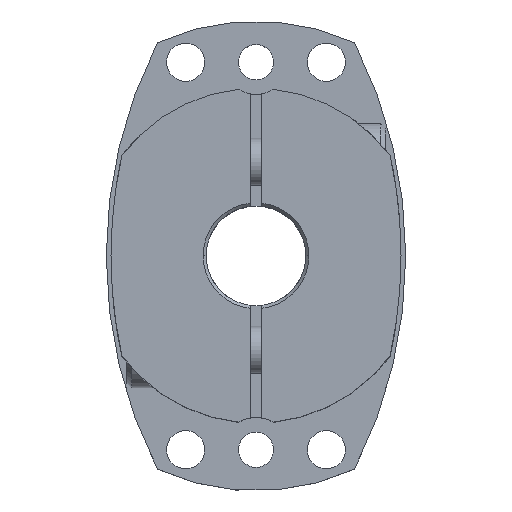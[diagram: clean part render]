
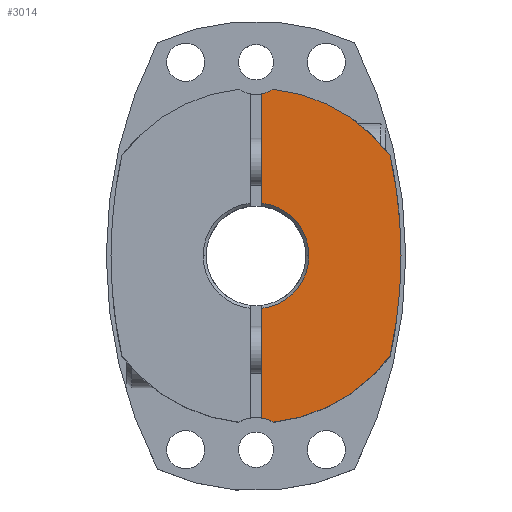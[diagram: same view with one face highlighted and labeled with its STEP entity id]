
A CAD part, top view. The second image highlights one B-rep face of the part: STEP entity #3014.
In plain terms, the highlighted planar face has unit normal (0, 0, 1).
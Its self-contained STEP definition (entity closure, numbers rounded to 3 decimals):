
#373=CARTESIAN_POINT('',(9.,0.,25.5));
#374=VERTEX_POINT('',#373);
#381=CARTESIAN_POINT('',(1.,8.944,25.5));
#382=VERTEX_POINT('',#381);
#383=CARTESIAN_POINT('',(0.,0.,25.5));
#384=DIRECTION('',(0.0,0.0,1.0));
#385=DIRECTION('',(-1.0,0.0,0.0));
#386=AXIS2_PLACEMENT_3D('',#383,#384,#385);
#387=CIRCLE('',#386,9.0);
#388=EDGE_CURVE('',#374,#382,#387,.T.);
#537=CARTESIAN_POINT('',(24.7,0.,25.5));
#538=VERTEX_POINT('',#537);
#658=CARTESIAN_POINT('',(22.845,17.039,25.5));
#659=VERTEX_POINT('',#658);
#666=CARTESIAN_POINT('',(-54.5,0.,25.5));
#667=DIRECTION('',(0.0,0.0,-1.0));
#668=DIRECTION('',(1.0,0.0,0.0));
#669=AXIS2_PLACEMENT_3D('',#666,#667,#668);
#670=CIRCLE('',#669,79.2);
#671=EDGE_CURVE('',#659,#538,#670,.T.);
#2331=CARTESIAN_POINT('',(2.935,28.348,25.5));
#2332=VERTEX_POINT('',#2331);
#2339=CARTESIAN_POINT('',(0.,0.,25.5));
#2340=DIRECTION('',(0.0,0.0,-1.0));
#2341=DIRECTION('',(1.0,0.0,0.0));
#2342=AXIS2_PLACEMENT_3D('',#2339,#2340,#2341);
#2343=CIRCLE('',#2342,28.5);
#2344=EDGE_CURVE('',#2332,#659,#2343,.T.);
#2555=CARTESIAN_POINT('',(22.845,-17.039,25.5));
#2556=VERTEX_POINT('',#2555);
#2557=CARTESIAN_POINT('',(-54.5,0.,25.5));
#2558=DIRECTION('',(0.0,0.0,-1.0));
#2559=DIRECTION('',(1.0,0.0,0.0));
#2560=AXIS2_PLACEMENT_3D('',#2557,#2558,#2559);
#2561=CIRCLE('',#2560,79.2);
#2562=EDGE_CURVE('',#538,#2556,#2561,.T.);
#2679=CARTESIAN_POINT('',(1.,-27.592,25.5));
#2680=VERTEX_POINT('',#2679);
#2696=CARTESIAN_POINT('',(2.935,-28.348,25.5));
#2697=VERTEX_POINT('',#2696);
#2704=CARTESIAN_POINT('',(0.,-33.,25.5));
#2705=DIRECTION('',(0.0,0.0,-1.0));
#2706=DIRECTION('',(1.0,0.0,0.0));
#2707=AXIS2_PLACEMENT_3D('',#2704,#2705,#2706);
#2708=CIRCLE('',#2707,5.5);
#2709=EDGE_CURVE('',#2680,#2697,#2708,.T.);
#2888=CARTESIAN_POINT('',(1.,27.592,25.5));
#2889=VERTEX_POINT('',#2888);
#2896=CARTESIAN_POINT('',(0.,33.,25.5));
#2897=DIRECTION('',(0.0,0.0,-1.0));
#2898=DIRECTION('',(1.0,0.0,0.0));
#2899=AXIS2_PLACEMENT_3D('',#2896,#2897,#2898);
#2900=CIRCLE('',#2899,5.5);
#2901=EDGE_CURVE('',#2332,#2889,#2900,.T.);
#2936=CARTESIAN_POINT('',(1.,-8.944,25.5));
#2937=VERTEX_POINT('',#2936);
#2938=CARTESIAN_POINT('',(1.,-8.944,25.5));
#2939=DIRECTION('',(0.0,-1.0,0.0));
#2940=VECTOR('',#2939,18.647);
#2941=LINE('',#2938,#2940);
#2942=EDGE_CURVE('',#2937,#2680,#2941,.T.);
#2980=CARTESIAN_POINT('',(0.,0.,25.5));
#2981=DIRECTION('',(0.0,0.0,1.0));
#2982=DIRECTION('',(1.0,0.0,0.0));
#2983=AXIS2_PLACEMENT_3D('',#2980,#2981,#2982);
#2984=PLANE('',#2983);
#2985=ORIENTED_EDGE('',*,*,#2709,.T.);
#2986=CARTESIAN_POINT('',(0.,0.,25.5));
#2987=DIRECTION('',(0.0,0.0,-1.0));
#2988=DIRECTION('',(1.0,0.0,0.0));
#2989=AXIS2_PLACEMENT_3D('',#2986,#2987,#2988);
#2990=CIRCLE('',#2989,28.5);
#2991=EDGE_CURVE('',#2556,#2697,#2990,.T.);
#2992=ORIENTED_EDGE('',*,*,#2991,.F.);
#2993=ORIENTED_EDGE('',*,*,#2562,.F.);
#2994=ORIENTED_EDGE('',*,*,#671,.F.);
#2995=ORIENTED_EDGE('',*,*,#2344,.F.);
#2996=ORIENTED_EDGE('',*,*,#2901,.T.);
#2997=CARTESIAN_POINT('',(1.,27.592,25.5));
#2998=DIRECTION('',(0.0,-1.0,0.0));
#2999=VECTOR('',#2998,18.647);
#3000=LINE('',#2997,#2999);
#3001=EDGE_CURVE('',#2889,#382,#3000,.T.);
#3002=ORIENTED_EDGE('',*,*,#3001,.T.);
#3003=ORIENTED_EDGE('',*,*,#388,.F.);
#3004=CARTESIAN_POINT('',(0.,0.,25.5));
#3005=DIRECTION('',(0.0,0.0,1.0));
#3006=DIRECTION('',(-1.0,0.0,0.0));
#3007=AXIS2_PLACEMENT_3D('',#3004,#3005,#3006);
#3008=CIRCLE('',#3007,9.0);
#3009=EDGE_CURVE('',#2937,#374,#3008,.T.);
#3010=ORIENTED_EDGE('',*,*,#3009,.F.);
#3011=ORIENTED_EDGE('',*,*,#2942,.T.);
#3012=EDGE_LOOP('',(#2985,#2992,#2993,#2994,#2995,#2996,#3002,#3003,#3010,#3011));
#3013=FACE_OUTER_BOUND('',#3012,.T.);
#3014=ADVANCED_FACE('',(#3013),#2984,.T.);
